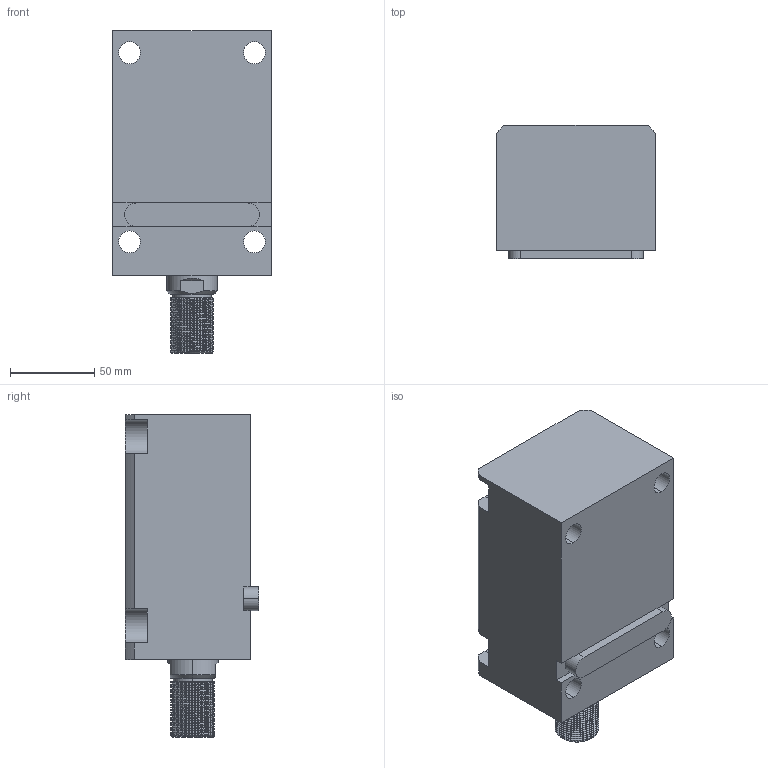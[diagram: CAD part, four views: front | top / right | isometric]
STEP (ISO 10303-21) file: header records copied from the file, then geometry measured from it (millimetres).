
FILE_DESCRIPTION (( 'STEP AP203' ), '1' );
FILE_NAME ('CHTB-LA50-85W.STEP', '2018-05-18T01:52:56', ( '' ), ( '' ), 'SwSTEP 2.0', 'SolidWorks 2015', '' );
FILE_SCHEMA (( 'CONFIG_CONTROL_DESIGN' ));
Length unit declared in the file: millimetre
Products named in the file (4): 活塞杆LA50-85W; 掛极LA50-85W; CHTB-LA50-85W; CHTM-SDMA50QG
Assembly tree (3 placements, depth 2):
  CHTB-LA50-85W
    掛极LA50-85W
    活塞杆LA50-85W
    CHTM-SDMA50QG
Bounding box: 94 x 79 x 191 mm (x, y, z)
Volume: 871151.4 mm3; surface area: 136257.6 mm2
Topology: 3 solids, 3 shells, 244 faces, 670 edges, 447 vertices
Faces by surface type: cylinder 136, plane 55, cone 21, bspline 16, torus 16
Entity records: 15046 total; most frequent: CARTESIAN_POINT 8903, ORIENTED_EDGE 1332, DIRECTION 1073, EDGE_CURVE 666, VERTEX_POINT 447, AXIS2_PLACEMENT_3D 416, EDGE_LOOP 277, ADVANCED_FACE 244
